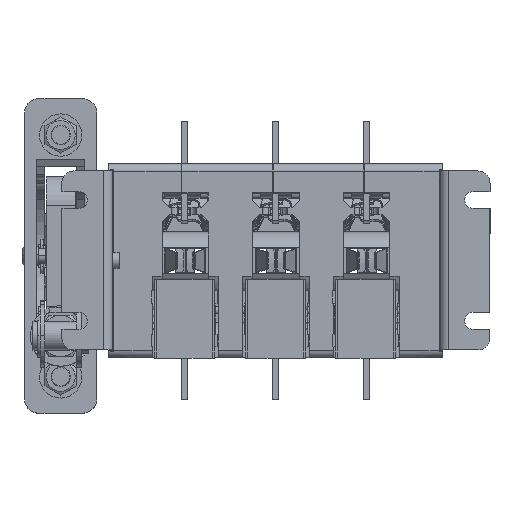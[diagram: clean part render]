
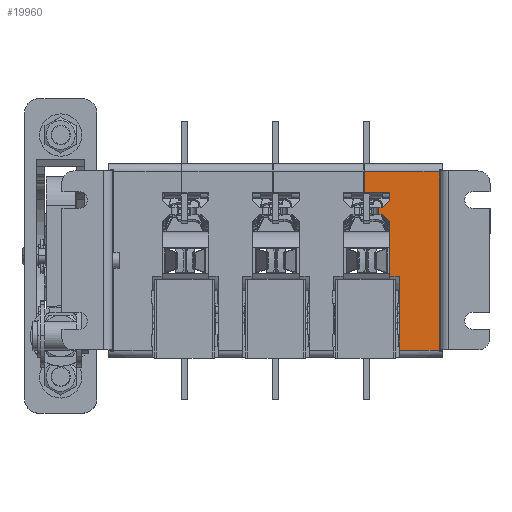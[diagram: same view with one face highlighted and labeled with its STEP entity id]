
A CAD part, top view. The second image highlights one B-rep face of the part: STEP entity #19960.
In plain terms, the highlighted planar face has unit normal (0, 0, 1) as drawn and (0, -1, 0) by its records, which use the part's own axes.
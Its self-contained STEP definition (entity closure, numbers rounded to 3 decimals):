
#756 = VECTOR ( 'NONE', #20257, 1000. ) ;
#958 = DIRECTION ( 'NONE',  ( -1., 0., 0. ) ) ;
#2382 = ORIENTED_EDGE ( 'NONE', *, *, #23755, .F. ) ;
#2540 = DIRECTION ( 'NONE',  ( 0., 1., 0. ) ) ;
#2761 = DIRECTION ( 'NONE',  ( 0., 0., 1. ) ) ;
#2990 = LINE ( 'NONE', #32791, #45250 ) ;
#3103 = VECTOR ( 'NONE', #4061, 1000. ) ;
#3480 = CARTESIAN_POINT ( 'NONE',  ( 6.5, -17.5, -4. ) ) ;
#3989 = VERTEX_POINT ( 'NONE', #37076 ) ;
#4061 = DIRECTION ( 'NONE',  ( 0.707, 0., -0.707 ) ) ;
#4085 = DIRECTION ( 'NONE',  ( 0.707, 0., 0.707 ) ) ;
#4810 = CARTESIAN_POINT ( 'NONE',  ( -15.5, -17.5, -3.5 ) ) ;
#6095 = LINE ( 'NONE', #17018, #34245 ) ;
#6294 = CARTESIAN_POINT ( 'NONE',  ( -37., -17.5, 16.5 ) ) ;
#7516 = VECTOR ( 'NONE', #41128, 1000. ) ;
#9113 = VERTEX_POINT ( 'NONE', #15570 ) ;
#9645 = LINE ( 'NONE', #58146, #54633 ) ;
#10217 = VERTEX_POINT ( 'NONE', #65203 ) ;
#10842 = ORIENTED_EDGE ( 'NONE', *, *, #21764, .F. ) ;
#11098 = CARTESIAN_POINT ( 'NONE',  ( -28., -17.5, -14.5 ) ) ;
#12049 = VERTEX_POINT ( 'NONE', #28843 ) ;
#12247 = CARTESIAN_POINT ( 'NONE',  ( -28., -17.5, -14.5 ) ) ;
#12316 = EDGE_LOOP ( 'NONE', ( #12424, #17767, #46316, #55860, #2382, #14499, #59537, #71853, #10842, #24782, #25320, #67229, #71258, #72165 ) ) ;
#12424 = ORIENTED_EDGE ( 'NONE', *, *, #20532, .F. ) ;
#12621 = DIRECTION ( 'NONE',  ( 1., 0., 0. ) ) ;
#13020 = VECTOR ( 'NONE', #4085, 1000. ) ;
#13811 = CARTESIAN_POINT ( 'NONE',  ( -22., -17.5, -8.5 ) ) ;
#14499 = ORIENTED_EDGE ( 'NONE', *, *, #66359, .T. ) ;
#14777 = VERTEX_POINT ( 'NONE', #41848 ) ;
#15570 = CARTESIAN_POINT ( 'NONE',  ( -37., -17.5, -14.5 ) ) ;
#16364 = VECTOR ( 'NONE', #26299, 1000. ) ;
#16468 = LINE ( 'NONE', #26144, #756 ) ;
#17018 = CARTESIAN_POINT ( 'NONE',  ( 6.5, -17.5, -4. ) ) ;
#17767 = ORIENTED_EDGE ( 'NONE', *, *, #50203, .T. ) ;
#18252 = AXIS2_PLACEMENT_3D ( 'NONE', #69956, #2540, #2761 ) ;
#18637 = LINE ( 'NONE', #6294, #31856 ) ;
#19282 = CARTESIAN_POINT ( 'NONE',  ( -25., -17.5, -4. ) ) ;
#19775 = EDGE_CURVE ( 'NONE', #3989, #67669, #9645, .T. ) ;
#19960 = ADVANCED_FACE ( 'NONE', ( #51035 ), #58622, .F. ) ;
#20257 = DIRECTION ( 'NONE',  ( 0., 0., 1. ) ) ;
#20532 = EDGE_CURVE ( 'NONE', #37110, #33279, #16468, .T. ) ;
#20865 = EDGE_CURVE ( 'NONE', #10217, #14777, #34129, .T. ) ;
#21764 = EDGE_CURVE ( 'NONE', #47281, #12049, #18637, .T. ) ;
#21768 = DIRECTION ( 'NONE',  ( 0., 0., -1. ) ) ;
#22295 = VECTOR ( 'NONE', #34850, 1000. ) ;
#22436 = LINE ( 'NONE', #46830, #7516 ) ;
#23453 = LINE ( 'NONE', #26813, #16364 ) ;
#23755 = EDGE_CURVE ( 'NONE', #66975, #14777, #6095, .T. ) ;
#24782 = ORIENTED_EDGE ( 'NONE', *, *, #66697, .T. ) ;
#25320 = ORIENTED_EDGE ( 'NONE', *, *, #63046, .F. ) ;
#26036 = VECTOR ( 'NONE', #21768, 1000. ) ;
#26142 = VECTOR ( 'NONE', #958, 1000. ) ;
#26144 = CARTESIAN_POINT ( 'NONE',  ( -22., -17.5, -26.869 ) ) ;
#26299 = DIRECTION ( 'NONE',  ( -1., 0., 0. ) ) ;
#26813 = CARTESIAN_POINT ( 'NONE',  ( -22., -17.5, -4. ) ) ;
#27845 = EDGE_CURVE ( 'NONE', #12049, #67669, #33137, .T. ) ;
#28843 = CARTESIAN_POINT ( 'NONE',  ( 37., -17.5, 16.5 ) ) ;
#29373 = CARTESIAN_POINT ( 'NONE',  ( -28., -17.5, -12.2 ) ) ;
#29407 = LINE ( 'NONE', #47181, #51516 ) ;
#31856 = VECTOR ( 'NONE', #51356, 1000. ) ;
#32791 = CARTESIAN_POINT ( 'NONE',  ( -37., -17.5, 18. ) ) ;
#33137 = LINE ( 'NONE', #38076, #26036 ) ;
#33279 = VERTEX_POINT ( 'NONE', #45628 ) ;
#34129 = LINE ( 'NONE', #4810, #13020 ) ;
#34245 = VECTOR ( 'NONE', #61647, 1000. ) ;
#34850 = DIRECTION ( 'NONE',  ( 0., 0., 1. ) ) ;
#37076 = CARTESIAN_POINT ( 'NONE',  ( 6.5, -17.5, 0. ) ) ;
#37110 = VERTEX_POINT ( 'NONE', #13811 ) ;
#38076 = CARTESIAN_POINT ( 'NONE',  ( 37., -17.5, 18. ) ) ;
#40865 = EDGE_CURVE ( 'NONE', #53213, #59645, #46110, .T. ) ;
#41128 = DIRECTION ( 'NONE',  ( 1., 0., 0. ) ) ;
#41166 = LINE ( 'NONE', #12247, #26142 ) ;
#41686 = CARTESIAN_POINT ( 'NONE',  ( -37., -17.5, 16.5 ) ) ;
#41848 = CARTESIAN_POINT ( 'NONE',  ( -16., -17.5, -4. ) ) ;
#45250 = VECTOR ( 'NONE', #55470, 1000. ) ;
#45529 = EDGE_CURVE ( 'NONE', #55537, #33279, #67443, .T. ) ;
#45628 = CARTESIAN_POINT ( 'NONE',  ( -22., -17.5, -7. ) ) ;
#46110 = LINE ( 'NONE', #29373, #22295 ) ;
#46316 = ORIENTED_EDGE ( 'NONE', *, *, #57817, .T. ) ;
#46830 = CARTESIAN_POINT ( 'NONE',  ( -26.243, -17.5, -8.5 ) ) ;
#47166 = VERTEX_POINT ( 'NONE', #52803 ) ;
#47181 = CARTESIAN_POINT ( 'NONE',  ( 6.5, -17.5, -7. ) ) ;
#47281 = VERTEX_POINT ( 'NONE', #41686 ) ;
#47711 = CARTESIAN_POINT ( 'NONE',  ( 37., -17.5, 0. ) ) ;
#50203 = EDGE_CURVE ( 'NONE', #37110, #47166, #22436, .T. ) ;
#51035 = FACE_OUTER_BOUND ( 'NONE', #12316, .T. ) ;
#51356 = DIRECTION ( 'NONE',  ( 1., 0., 0. ) ) ;
#51516 = VECTOR ( 'NONE', #58480, 1000. ) ;
#52803 = CARTESIAN_POINT ( 'NONE',  ( -19., -17.5, -8.5 ) ) ;
#53213 = VERTEX_POINT ( 'NONE', #11098 ) ;
#54573 = EDGE_CURVE ( 'NONE', #55537, #59645, #23453, .T. ) ;
#54633 = VECTOR ( 'NONE', #12621, 1000. ) ;
#54868 = CARTESIAN_POINT ( 'NONE',  ( -19., -17.5, -26.869 ) ) ;
#55470 = DIRECTION ( 'NONE',  ( 0., 0., -1. ) ) ;
#55537 = VERTEX_POINT ( 'NONE', #19282 ) ;
#55860 = ORIENTED_EDGE ( 'NONE', *, *, #20865, .T. ) ;
#57817 = EDGE_CURVE ( 'NONE', #47166, #10217, #60846, .T. ) ;
#58146 = CARTESIAN_POINT ( 'NONE',  ( -37., -17.5, 0. ) ) ;
#58480 = DIRECTION ( 'NONE',  ( 0., 0., 1. ) ) ;
#58622 = PLANE ( 'NONE',  #18252 ) ;
#59537 = ORIENTED_EDGE ( 'NONE', *, *, #19775, .T. ) ;
#59645 = VERTEX_POINT ( 'NONE', #61869 ) ;
#59776 = DIRECTION ( 'NONE',  ( 0., 0., 1. ) ) ;
#60846 = LINE ( 'NONE', #54868, #69614 ) ;
#60870 = CARTESIAN_POINT ( 'NONE',  ( -42., -17.5, 13. ) ) ;
#61647 = DIRECTION ( 'NONE',  ( -1., 0., 0. ) ) ;
#61869 = CARTESIAN_POINT ( 'NONE',  ( -28., -17.5, -4. ) ) ;
#63046 = EDGE_CURVE ( 'NONE', #53213, #9113, #41166, .T. ) ;
#65203 = CARTESIAN_POINT ( 'NONE',  ( -19., -17.5, -7. ) ) ;
#66359 = EDGE_CURVE ( 'NONE', #66975, #3989, #29407, .T. ) ;
#66697 = EDGE_CURVE ( 'NONE', #47281, #9113, #2990, .T. ) ;
#66975 = VERTEX_POINT ( 'NONE', #3480 ) ;
#67229 = ORIENTED_EDGE ( 'NONE', *, *, #40865, .T. ) ;
#67443 = LINE ( 'NONE', #60870, #3103 ) ;
#67669 = VERTEX_POINT ( 'NONE', #47711 ) ;
#69614 = VECTOR ( 'NONE', #59776, 1000. ) ;
#69956 = CARTESIAN_POINT ( 'NONE',  ( -37., -17.5, 18. ) ) ;
#71258 = ORIENTED_EDGE ( 'NONE', *, *, #54573, .F. ) ;
#71853 = ORIENTED_EDGE ( 'NONE', *, *, #27845, .F. ) ;
#72165 = ORIENTED_EDGE ( 'NONE', *, *, #45529, .T. ) ;
